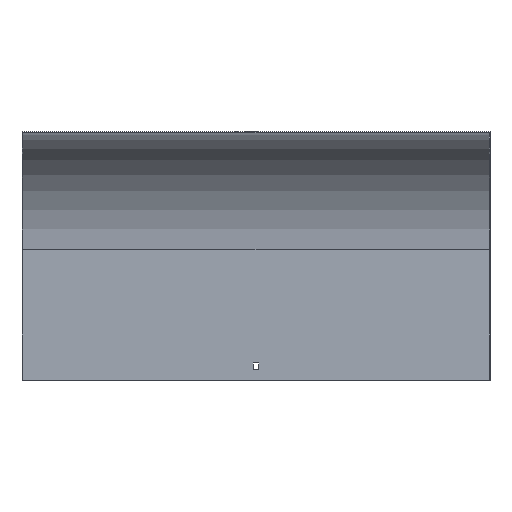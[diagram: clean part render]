
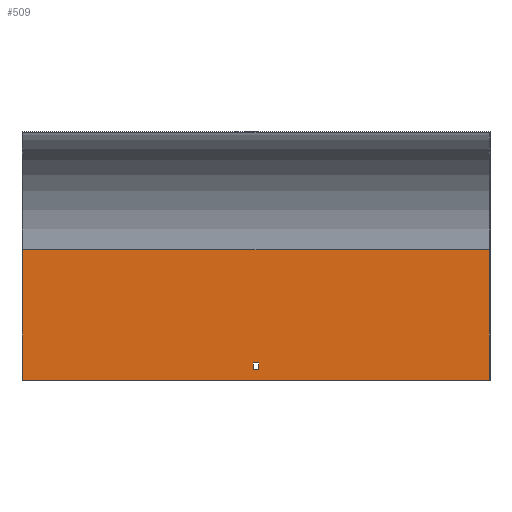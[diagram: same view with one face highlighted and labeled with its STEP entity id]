
A CAD part, top view. The second image highlights one B-rep face of the part: STEP entity #509.
In plain terms, the highlighted planar face has unit normal (0, 0, 1).
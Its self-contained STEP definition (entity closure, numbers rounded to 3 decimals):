
#26 = CARTESIAN_POINT ( 'NONE',  ( -250., -126., -265. ) ) ;
#29 = EDGE_CURVE ( 'NONE', #629, #721, #588, .T. ) ;
#38 = CARTESIAN_POINT ( 'NONE',  ( 250., -126., -265. ) ) ;
#48 = DIRECTION ( 'NONE',  ( -1., 0., 0. ) ) ;
#81 = DIRECTION ( 'NONE',  ( 0., 0., 1. ) ) ;
#86 = CARTESIAN_POINT ( 'NONE',  ( -250., -266., -265. ) ) ;
#98 = LINE ( 'NONE', #684, #734 ) ;
#127 = ORIENTED_EDGE ( 'NONE', *, *, #29, .T. ) ;
#139 = DIRECTION ( 'NONE',  ( 0., 1., 0. ) ) ;
#145 = CARTESIAN_POINT ( 'NONE',  ( 251., -126., -265. ) ) ;
#157 = LINE ( 'NONE', #562, #391 ) ;
#169 = EDGE_CURVE ( 'NONE', #512, #731, #98, .T. ) ;
#172 = ORIENTED_EDGE ( 'NONE', *, *, #522, .F. ) ;
#229 = DIRECTION ( 'NONE',  ( 0., -1., 0. ) ) ;
#230 = DIRECTION ( 'NONE',  ( 0., -1., 0. ) ) ;
#257 = EDGE_CURVE ( 'NONE', #491, #382, #555, .T. ) ;
#280 = CARTESIAN_POINT ( 'NONE',  ( -3., -254.5, -265. ) ) ;
#289 = PLANE ( 'NONE',  #583 ) ;
#308 = ORIENTED_EDGE ( 'NONE', *, *, #257, .T. ) ;
#311 = EDGE_CURVE ( 'NONE', #382, #701, #388, .T. ) ;
#380 = CARTESIAN_POINT ( 'NONE',  ( 3., -254.5, -265. ) ) ;
#382 = VERTEX_POINT ( 'NONE', #380 ) ;
#387 = EDGE_CURVE ( 'NONE', #701, #781, #438, .T. ) ;
#388 = LINE ( 'NONE', #650, #821 ) ;
#391 = VECTOR ( 'NONE', #415, 1000. ) ;
#415 = DIRECTION ( 'NONE',  ( 1., 0., 0. ) ) ;
#432 = VECTOR ( 'NONE', #514, 1000. ) ;
#438 = LINE ( 'NONE', #569, #432 ) ;
#455 = EDGE_CURVE ( 'NONE', #512, #629, #470, .T. ) ;
#456 = VECTOR ( 'NONE', #737, 1000. ) ;
#461 = VECTOR ( 'NONE', #229, 1000. ) ;
#470 = LINE ( 'NONE', #735, #571 ) ;
#491 = VERTEX_POINT ( 'NONE', #686 ) ;
#503 = EDGE_CURVE ( 'NONE', #781, #491, #157, .T. ) ;
#509 = ADVANCED_FACE ( 'NONE', ( #829, #814 ), #289, .T. ) ;
#512 = VERTEX_POINT ( 'NONE', #545 ) ;
#514 = DIRECTION ( 'NONE',  ( 0., 1., 0. ) ) ;
#517 = VECTOR ( 'NONE', #756, 1000. ) ;
#522 = EDGE_CURVE ( 'NONE', #731, #721, #695, .T. ) ;
#545 = CARTESIAN_POINT ( 'NONE',  ( 250., -266., -265. ) ) ;
#555 = LINE ( 'NONE', #824, #461 ) ;
#562 = CARTESIAN_POINT ( 'NONE',  ( 251., -247.5, -265. ) ) ;
#569 = CARTESIAN_POINT ( 'NONE',  ( -3., -126., -265. ) ) ;
#571 = VECTOR ( 'NONE', #139, 1000. ) ;
#583 = AXIS2_PLACEMENT_3D ( 'NONE', #825, #81, #230 ) ;
#588 = LINE ( 'NONE', #145, #456 ) ;
#629 = VERTEX_POINT ( 'NONE', #38 ) ;
#650 = CARTESIAN_POINT ( 'NONE',  ( 251., -254.5, -265. ) ) ;
#654 = EDGE_LOOP ( 'NONE', ( #772, #726, #786, #308 ) ) ;
#667 = CARTESIAN_POINT ( 'NONE',  ( -250., -126., -265. ) ) ;
#684 = CARTESIAN_POINT ( 'NONE',  ( 251., -266., -265. ) ) ;
#686 = CARTESIAN_POINT ( 'NONE',  ( 3., -247.5, -265. ) ) ;
#695 = LINE ( 'NONE', #26, #517 ) ;
#701 = VERTEX_POINT ( 'NONE', #280 ) ;
#712 = ORIENTED_EDGE ( 'NONE', *, *, #455, .T. ) ;
#713 = EDGE_LOOP ( 'NONE', ( #172, #717, #712, #127 ) ) ;
#717 = ORIENTED_EDGE ( 'NONE', *, *, #169, .F. ) ;
#721 = VERTEX_POINT ( 'NONE', #667 ) ;
#726 = ORIENTED_EDGE ( 'NONE', *, *, #387, .T. ) ;
#731 = VERTEX_POINT ( 'NONE', #86 ) ;
#734 = VECTOR ( 'NONE', #826, 1000. ) ;
#735 = CARTESIAN_POINT ( 'NONE',  ( 250., -126., -265. ) ) ;
#737 = DIRECTION ( 'NONE',  ( -1., 0., 0. ) ) ;
#756 = DIRECTION ( 'NONE',  ( 0., 1., 0. ) ) ;
#772 = ORIENTED_EDGE ( 'NONE', *, *, #311, .T. ) ;
#781 = VERTEX_POINT ( 'NONE', #860 ) ;
#786 = ORIENTED_EDGE ( 'NONE', *, *, #503, .T. ) ;
#814 = FACE_BOUND ( 'NONE', #654, .T. ) ;
#821 = VECTOR ( 'NONE', #48, 1000. ) ;
#824 = CARTESIAN_POINT ( 'NONE',  ( 3., -126., -265. ) ) ;
#825 = CARTESIAN_POINT ( 'NONE',  ( 251., -126., -265. ) ) ;
#826 = DIRECTION ( 'NONE',  ( -1., 0., 0. ) ) ;
#829 = FACE_OUTER_BOUND ( 'NONE', #713, .T. ) ;
#860 = CARTESIAN_POINT ( 'NONE',  ( -3., -247.5, -265. ) ) ;
